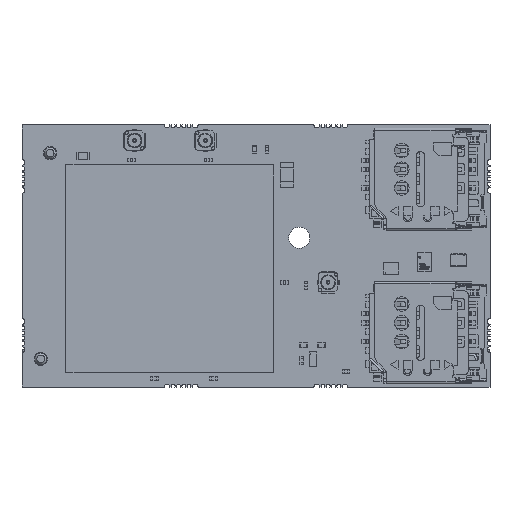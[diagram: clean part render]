
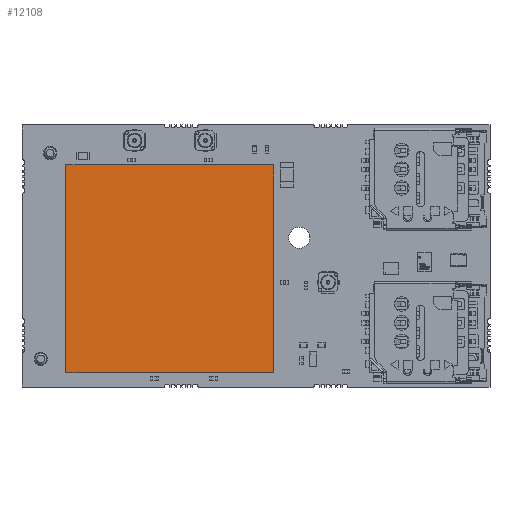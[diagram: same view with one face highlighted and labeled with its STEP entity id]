
A CAD part, top view. The second image highlights one B-rep face of the part: STEP entity #12108.
In plain terms, the highlighted planar face has unit normal (0, 0, 1).
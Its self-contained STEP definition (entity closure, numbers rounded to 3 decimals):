
#11979 = VERTEX_POINT('',#11980);
#11980 = CARTESIAN_POINT('',(-14.1,-14.1,2.2));
#11986 = EDGE_CURVE('',#11979,#11987,#11989,.T.);
#11987 = VERTEX_POINT('',#11988);
#11988 = CARTESIAN_POINT('',(-14.1,14.1,2.2));
#11989 = LINE('',#11990,#11991);
#11990 = CARTESIAN_POINT('',(-14.1,-14.1,2.2));
#11991 = VECTOR('',#11992,1.);
#11992 = DIRECTION('',(0.,1.,0.));
#12017 = EDGE_CURVE('',#11987,#12018,#12020,.T.);
#12018 = VERTEX_POINT('',#12019);
#12019 = CARTESIAN_POINT('',(14.1,14.1,2.2));
#12020 = LINE('',#12021,#12022);
#12021 = CARTESIAN_POINT('',(-14.1,14.1,2.2));
#12022 = VECTOR('',#12023,1.);
#12023 = DIRECTION('',(1.,0.,0.));
#12048 = EDGE_CURVE('',#12018,#12049,#12051,.T.);
#12049 = VERTEX_POINT('',#12050);
#12050 = CARTESIAN_POINT('',(14.1,-14.1,2.2));
#12051 = LINE('',#12052,#12053);
#12052 = CARTESIAN_POINT('',(14.1,14.1,2.2));
#12053 = VECTOR('',#12054,1.);
#12054 = DIRECTION('',(0.,-1.,0.));
#12079 = EDGE_CURVE('',#12049,#11979,#12080,.T.);
#12080 = LINE('',#12081,#12082);
#12081 = CARTESIAN_POINT('',(14.1,-14.1,2.2));
#12082 = VECTOR('',#12083,1.);
#12083 = DIRECTION('',(-1.,0.,0.));
#12108 = ADVANCED_FACE('',(#12109),#12115,.T.);
#12109 = FACE_BOUND('',#12110,.F.);
#12110 = EDGE_LOOP('',(#12111,#12112,#12113,#12114));
#12111 = ORIENTED_EDGE('',*,*,#11986,.T.);
#12112 = ORIENTED_EDGE('',*,*,#12017,.T.);
#12113 = ORIENTED_EDGE('',*,*,#12048,.T.);
#12114 = ORIENTED_EDGE('',*,*,#12079,.T.);
#12115 = PLANE('',#12116);
#12116 = AXIS2_PLACEMENT_3D('',#12117,#12118,#12119);
#12117 = CARTESIAN_POINT('',(-14.1,-14.1,2.2));
#12118 = DIRECTION('',(0.,0.,1.));
#12119 = DIRECTION('',(1.,0.,0.));
